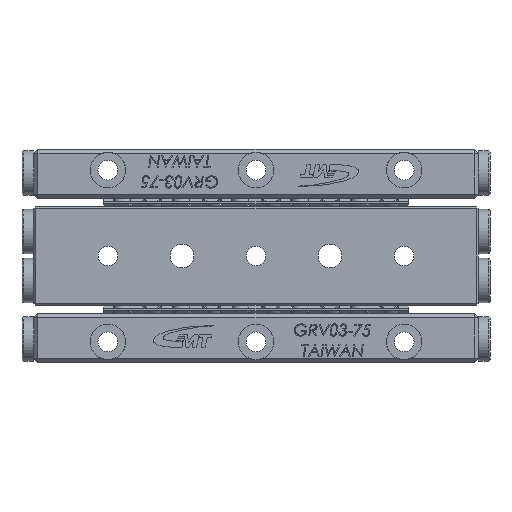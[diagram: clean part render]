
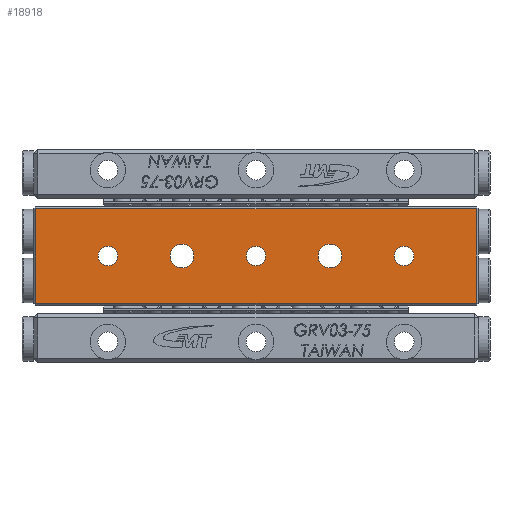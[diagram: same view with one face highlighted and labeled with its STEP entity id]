
A CAD part, front view. The second image highlights one B-rep face of the part: STEP entity #18918.
In plain terms, the highlighted planar face has unit normal (0, -1, 0).
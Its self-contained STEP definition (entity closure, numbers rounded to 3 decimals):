
#703 = DIRECTION ( 'NONE',  ( 0., 0., 1. ) ) ;
#876 = DIRECTION ( 'NONE',  ( 0., 1., 0. ) ) ;
#1715 = CIRCLE ( 'NONE', #17864, 1.65 ) ;
#1952 = EDGE_LOOP ( 'NONE', ( #9321 ) ) ;
#2102 = EDGE_CURVE ( 'NONE', #12819, #28065, #6225, .T. ) ;
#2934 = CARTESIAN_POINT ( 'NONE',  ( 0., 0., 0. ) ) ;
#2985 = LINE ( 'NONE', #23724, #12229 ) ;
#3047 = DIRECTION ( 'NONE',  ( 0., 0., 1. ) ) ;
#3233 = PLANE ( 'NONE',  #17220 ) ;
#3607 = CARTESIAN_POINT ( 'NONE',  ( -12.5, 0., 2. ) ) ;
#3795 = EDGE_CURVE ( 'NONE', #15276, #15276, #7786, .T. ) ;
#5144 = CARTESIAN_POINT ( 'NONE',  ( 12.5, 0., 2. ) ) ;
#5274 = ORIENTED_EDGE ( 'NONE', *, *, #33175, .T. ) ;
#5599 = CIRCLE ( 'NONE', #8309, 2. ) ;
#5607 = AXIS2_PLACEMENT_3D ( 'NONE', #28633, #5836, #16142 ) ;
#5759 = CIRCLE ( 'NONE', #33261, 2. ) ;
#5836 = DIRECTION ( 'NONE',  ( 0., 1., 0. ) ) ;
#5934 = DIRECTION ( 'NONE',  ( 0., 0., -1. ) ) ;
#6141 = VERTEX_POINT ( 'NONE', #31953 ) ;
#6225 = LINE ( 'NONE', #16854, #8231 ) ;
#6364 = ORIENTED_EDGE ( 'NONE', *, *, #3795, .T. ) ;
#6434 = FACE_BOUND ( 'NONE', #15936, .T. ) ;
#7646 = VECTOR ( 'NONE', #21383, 1000. ) ;
#7786 = CIRCLE ( 'NONE', #26623, 1.65 ) ;
#7795 = DIRECTION ( 'NONE',  ( 0., 1., 0. ) ) ;
#8231 = VECTOR ( 'NONE', #29851, 1000. ) ;
#8309 = AXIS2_PLACEMENT_3D ( 'NONE', #10471, #13492, #3047 ) ;
#8637 = CARTESIAN_POINT ( 'NONE',  ( -37.5, 0., 8.3 ) ) ;
#8808 = FACE_BOUND ( 'NONE', #10165, .T. ) ;
#8884 = VERTEX_POINT ( 'NONE', #21541 ) ;
#9321 = ORIENTED_EDGE ( 'NONE', *, *, #14927, .T. ) ;
#10026 = DIRECTION ( 'NONE',  ( 0., 1., 0. ) ) ;
#10165 = EDGE_LOOP ( 'NONE', ( #6364 ) ) ;
#10471 = CARTESIAN_POINT ( 'NONE',  ( 12.5, 0., 0. ) ) ;
#10908 = LINE ( 'NONE', #11080, #7646 ) ;
#11080 = CARTESIAN_POINT ( 'NONE',  ( -37.5, 0., -8. ) ) ;
#11128 = DIRECTION ( 'NONE',  ( 0., 1., 0. ) ) ;
#12229 = VECTOR ( 'NONE', #28310, 1000. ) ;
#12819 = VERTEX_POINT ( 'NONE', #21117 ) ;
#12954 = ORIENTED_EDGE ( 'NONE', *, *, #22953, .T. ) ;
#13492 = DIRECTION ( 'NONE',  ( 0., 1., 0. ) ) ;
#13826 = EDGE_CURVE ( 'NONE', #28065, #8884, #26364, .T. ) ;
#14927 = EDGE_CURVE ( 'NONE', #28268, #28268, #5599, .T. ) ;
#15276 = VERTEX_POINT ( 'NONE', #20507 ) ;
#15493 = EDGE_LOOP ( 'NONE', ( #31509, #27506, #5274, #23287 ) ) ;
#15936 = EDGE_LOOP ( 'NONE', ( #12954 ) ) ;
#16142 = DIRECTION ( 'NONE',  ( 0., 0., 1. ) ) ;
#16611 = VERTEX_POINT ( 'NONE', #3607 ) ;
#16854 = CARTESIAN_POINT ( 'NONE',  ( -37.5, 0., 8. ) ) ;
#17147 = ORIENTED_EDGE ( 'NONE', *, *, #30218, .T. ) ;
#17220 = AXIS2_PLACEMENT_3D ( 'NONE', #8637, #876, #703 ) ;
#17303 = EDGE_LOOP ( 'NONE', ( #17147 ) ) ;
#17864 = AXIS2_PLACEMENT_3D ( 'NONE', #21757, #11128, #26829 ) ;
#18552 = CIRCLE ( 'NONE', #5607, 1.65 ) ;
#18635 = VERTEX_POINT ( 'NONE', #23849 ) ;
#18764 = FACE_BOUND ( 'NONE', #1952, .T. ) ;
#18918 = ADVANCED_FACE ( 'NONE', ( #26863, #18764, #8808, #29214, #26359, #6434 ), #3233, .F. ) ;
#19911 = CARTESIAN_POINT ( 'NONE',  ( 37.2, 0., -8. ) ) ;
#20109 = VECTOR ( 'NONE', #5934, 1000. ) ;
#20507 = CARTESIAN_POINT ( 'NONE',  ( 0., 0., 1.65 ) ) ;
#21117 = CARTESIAN_POINT ( 'NONE',  ( 37.2, 0., 8. ) ) ;
#21221 = EDGE_LOOP ( 'NONE', ( #22820 ) ) ;
#21383 = DIRECTION ( 'NONE',  ( 1., 0., 0. ) ) ;
#21541 = CARTESIAN_POINT ( 'NONE',  ( -37.2, 0., -8. ) ) ;
#21757 = CARTESIAN_POINT ( 'NONE',  ( -25., 0., 0. ) ) ;
#22820 = ORIENTED_EDGE ( 'NONE', *, *, #25390, .T. ) ;
#22953 = EDGE_CURVE ( 'NONE', #18635, #18635, #18552, .T. ) ;
#23287 = ORIENTED_EDGE ( 'NONE', *, *, #2102, .T. ) ;
#23508 = DIRECTION ( 'NONE',  ( 0., 0., 1. ) ) ;
#23724 = CARTESIAN_POINT ( 'NONE',  ( 37.2, 0., 8.3 ) ) ;
#23849 = CARTESIAN_POINT ( 'NONE',  ( 25., 0., 1.65 ) ) ;
#25390 = EDGE_CURVE ( 'NONE', #6141, #6141, #1715, .T. ) ;
#25666 = EDGE_CURVE ( 'NONE', #8884, #29557, #10908, .T. ) ;
#25667 = DIRECTION ( 'NONE',  ( 0., 0., 1. ) ) ;
#26359 = FACE_BOUND ( 'NONE', #21221, .T. ) ;
#26364 = LINE ( 'NONE', #29060, #20109 ) ;
#26623 = AXIS2_PLACEMENT_3D ( 'NONE', #2934, #10026, #23508 ) ;
#26829 = DIRECTION ( 'NONE',  ( 0., 0., 1. ) ) ;
#26863 = FACE_OUTER_BOUND ( 'NONE', #15493, .T. ) ;
#27427 = CARTESIAN_POINT ( 'NONE',  ( -37.2, 0., 8. ) ) ;
#27506 = ORIENTED_EDGE ( 'NONE', *, *, #25666, .T. ) ;
#28065 = VERTEX_POINT ( 'NONE', #27427 ) ;
#28213 = CARTESIAN_POINT ( 'NONE',  ( -12.5, 0., 0. ) ) ;
#28268 = VERTEX_POINT ( 'NONE', #5144 ) ;
#28310 = DIRECTION ( 'NONE',  ( 0., 0., 1. ) ) ;
#28633 = CARTESIAN_POINT ( 'NONE',  ( 25., 0., 0. ) ) ;
#29060 = CARTESIAN_POINT ( 'NONE',  ( -37.2, 0., 8.3 ) ) ;
#29214 = FACE_BOUND ( 'NONE', #17303, .T. ) ;
#29557 = VERTEX_POINT ( 'NONE', #19911 ) ;
#29851 = DIRECTION ( 'NONE',  ( -1., 0., 0. ) ) ;
#30218 = EDGE_CURVE ( 'NONE', #16611, #16611, #5759, .T. ) ;
#31509 = ORIENTED_EDGE ( 'NONE', *, *, #13826, .T. ) ;
#31953 = CARTESIAN_POINT ( 'NONE',  ( -25., 0., 1.65 ) ) ;
#33175 = EDGE_CURVE ( 'NONE', #29557, #12819, #2985, .T. ) ;
#33261 = AXIS2_PLACEMENT_3D ( 'NONE', #28213, #7795, #25667 ) ;
